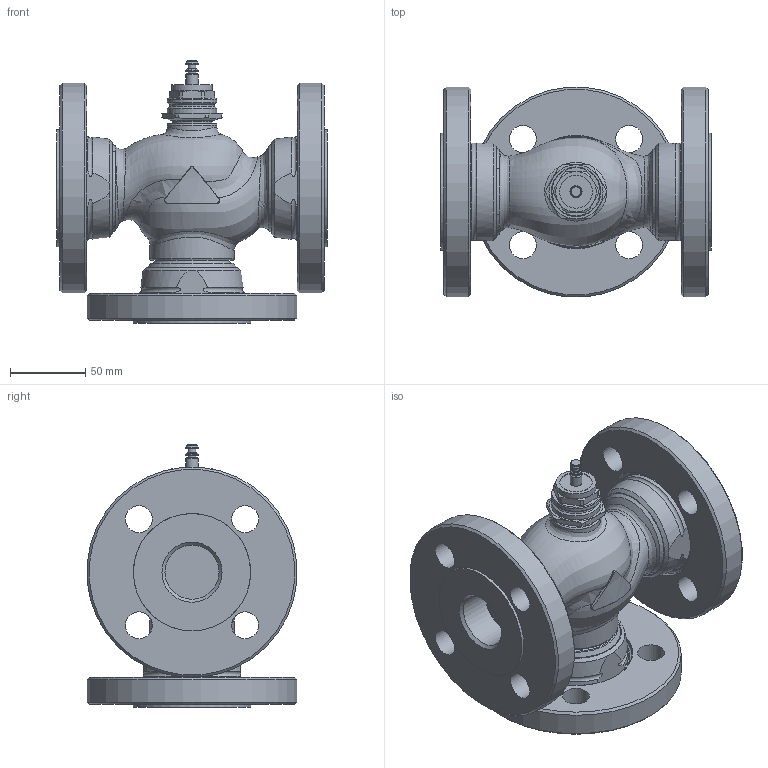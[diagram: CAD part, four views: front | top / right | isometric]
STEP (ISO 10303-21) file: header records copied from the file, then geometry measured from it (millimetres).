
FILE_DESCRIPTION(/* description */ (''),/* implementation_level */ '2;1');
FILE_NAME(/* name */ 'rv111s_dn32_3_F.stp',/* time_stamp */ '2012-02-28T08:06:22+01:00',/* author */ ('KLIMES'),/* organization */ ('LDM'),/* preprocessor_version */ 'ST-DEVELOPER v11',/* originating_system */ 'SIEMENS PLM Software NX 7.0',/* authorisation */ '');
FILE_SCHEMA (('CONFIG_CONTROL_DESIGN'));
Length unit declared in the file: millimetre
Products named in the file (1): klimEAFB3cal
Bounding box: 180 x 139.47 x 174.95 mm (x, y, z)
Volume: 1295950.3 mm3; surface area: 189407.7 mm2
Topology: 4 solids, 4 shells, 236 faces, 542 edges, 342 vertices
Faces by surface type: cylinder 70, plane 63, cone 61, torus 22, bspline 20
Full cylindrical faces by diameter (mm): 5.3 x1, 5.5 x1, 8 x3, 18 x12, 22 x1, 26.5 x1, 27 x1, 33 x3, 36 x3, 56 x1, 56.656 x3, 59.614 x3, 60 x3, 78 x3, 140 x3
Entity records: 11827 total; most frequent: CARTESIAN_POINT 7119, DIRECTION 944, ORIENTED_EDGE 810, AXIS2_PLACEMENT_3D 439, EDGE_CURVE 405, EDGE_LOOP 392, VERTEX_POINT 303, FACE_BOUND 286
